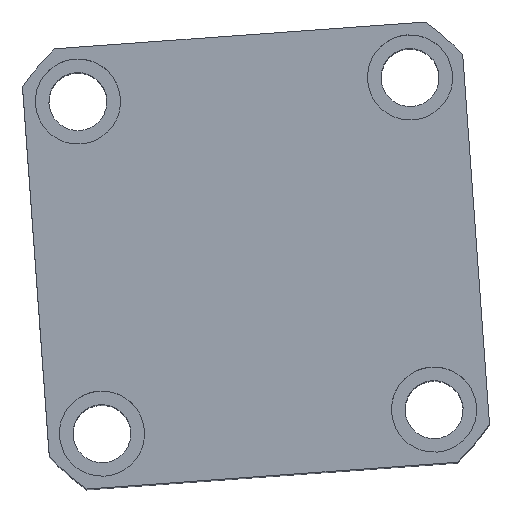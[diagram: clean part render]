
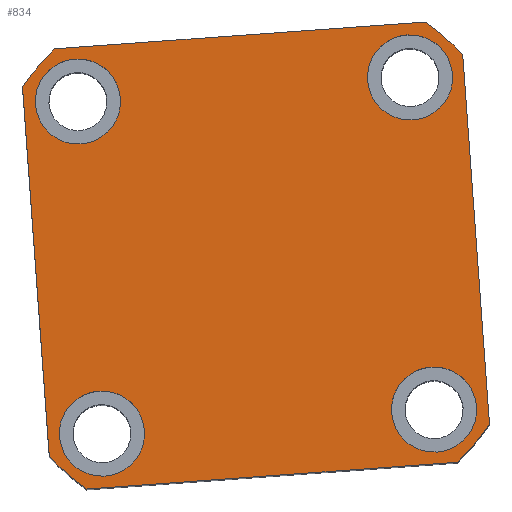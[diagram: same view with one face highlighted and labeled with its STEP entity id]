
A CAD part, top view. The second image highlights one B-rep face of the part: STEP entity #834.
In plain terms, the highlighted planar face has unit normal (0, 0, 1) as drawn and (0, 0, -1) by its records, which use the part's own axes.
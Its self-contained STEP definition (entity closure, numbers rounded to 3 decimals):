
#19 = VERTEX_POINT ( 'NONE', #7756 ) ;
#45 = AXIS2_PLACEMENT_3D ( 'NONE', #4732, #12927, #5910 ) ;
#78 = EDGE_CURVE ( 'NONE', #4107, #19, #8473, .T. ) ;
#91 = DIRECTION ( 'NONE',  ( -1., 0., 0. ) ) ;
#135 = CARTESIAN_POINT ( 'NONE',  ( -32., -43., 0. ) ) ;
#428 = ORIENTED_EDGE ( 'NONE', *, *, #13526, .F. ) ;
#440 = EDGE_LOOP ( 'NONE', ( #12144, #14699 ) ) ;
#528 = AXIS2_PLACEMENT_3D ( 'NONE', #10680, #3644, #11846 ) ;
#705 = VECTOR ( 'NONE', #5533, 1000. ) ;
#834 = ADVANCED_FACE ( 'NONE', ( #3504, #3128, #11770, #8647, #5907 ), #8734, .F. ) ;
#862 = EDGE_CURVE ( 'NONE', #19, #12940, #11400, .T. ) ;
#1040 = AXIS2_PLACEMENT_3D ( 'NONE', #2072, #10305, #3271 ) ;
#1099 = DIRECTION ( 'NONE',  ( -1., 0., 0. ) ) ;
#1164 = CARTESIAN_POINT ( 'NONE',  ( 47.971, -57., 0. ) ) ;
#1219 = CARTESIAN_POINT ( 'NONE',  ( 54., -43., 0. ) ) ;
#1561 = AXIS2_PLACEMENT_3D ( 'NONE', #4522, #2078, #15174 ) ;
#1895 = CIRCLE ( 'NONE', #45, 11. ) ;
#1928 = DIRECTION ( 'NONE',  ( 0., 0., 1. ) ) ;
#1956 = CARTESIAN_POINT ( 'NONE',  ( -47.971, -57., 0. ) ) ;
#2010 = CIRCLE ( 'NONE', #6474, 11. ) ;
#2044 = CARTESIAN_POINT ( 'NONE',  ( 43., -43., 0. ) ) ;
#2062 = VERTEX_POINT ( 'NONE', #1219 ) ;
#2071 = CARTESIAN_POINT ( 'NONE',  ( -57., 57., 0. ) ) ;
#2072 = CARTESIAN_POINT ( 'NONE',  ( -43., 43., 0. ) ) ;
#2078 = DIRECTION ( 'NONE',  ( 0., 0., 1. ) ) ;
#2204 = ORIENTED_EDGE ( 'NONE', *, *, #7381, .F. ) ;
#2319 = EDGE_CURVE ( 'NONE', #3867, #13587, #6017, .T. ) ;
#2358 = AXIS2_PLACEMENT_3D ( 'NONE', #6392, #1928, #7557 ) ;
#2972 = ORIENTED_EDGE ( 'NONE', *, *, #11427, .F. ) ;
#3128 = FACE_BOUND ( 'NONE', #440, .T. ) ;
#3246 = DIRECTION ( 'NONE',  ( -1., 0., 0. ) ) ;
#3257 = CARTESIAN_POINT ( 'NONE',  ( 54., 43., 0. ) ) ;
#3271 = DIRECTION ( 'NONE',  ( -1., 0., 0. ) ) ;
#3294 = VECTOR ( 'NONE', #8047, 1000. ) ;
#3298 = DIRECTION ( 'NONE',  ( 0., 0., 1. ) ) ;
#3312 = AXIS2_PLACEMENT_3D ( 'NONE', #10905, #3873, #12087 ) ;
#3374 = DIRECTION ( 'NONE',  ( 0., 0., -1. ) ) ;
#3468 = DIRECTION ( 'NONE',  ( 0., 0., -1. ) ) ;
#3504 = FACE_BOUND ( 'NONE', #8208, .T. ) ;
#3607 = VERTEX_POINT ( 'NONE', #1164 ) ;
#3644 = DIRECTION ( 'NONE',  ( 0., 0., -1. ) ) ;
#3743 = EDGE_CURVE ( 'NONE', #3607, #4107, #10211, .T. ) ;
#3821 = DIRECTION ( 'NONE',  ( 0., 0., 1. ) ) ;
#3867 = VERTEX_POINT ( 'NONE', #14611 ) ;
#3873 = DIRECTION ( 'NONE',  ( 0., 0., 1. ) ) ;
#3947 = CARTESIAN_POINT ( 'NONE',  ( -57., -47.971, 0. ) ) ;
#4107 = VERTEX_POINT ( 'NONE', #5319 ) ;
#4120 = ORIENTED_EDGE ( 'NONE', *, *, #13352, .F. ) ;
#4135 = ORIENTED_EDGE ( 'NONE', *, *, #12421, .F. ) ;
#4241 = CARTESIAN_POINT ( 'NONE',  ( 32., 43., 0. ) ) ;
#4441 = EDGE_CURVE ( 'NONE', #11419, #6930, #11673, .T. ) ;
#4522 = CARTESIAN_POINT ( 'NONE',  ( 0., 0., 0. ) ) ;
#4544 = EDGE_CURVE ( 'NONE', #11704, #11486, #1895, .T. ) ;
#4732 = CARTESIAN_POINT ( 'NONE',  ( -43., 43., 0. ) ) ;
#5035 = CARTESIAN_POINT ( 'NONE',  ( 32., -43., 0. ) ) ;
#5319 = CARTESIAN_POINT ( 'NONE',  ( 57., -47.971, 0. ) ) ;
#5344 = VECTOR ( 'NONE', #12372, 1000. ) ;
#5468 = CARTESIAN_POINT ( 'NONE',  ( -57., 57., 0. ) ) ;
#5533 = DIRECTION ( 'NONE',  ( -1., 0., 0. ) ) ;
#5907 = FACE_OUTER_BOUND ( 'NONE', #14510, .T. ) ;
#5910 = DIRECTION ( 'NONE',  ( -1., 0., 0. ) ) ;
#6010 = VERTEX_POINT ( 'NONE', #7324 ) ;
#6017 = CIRCLE ( 'NONE', #12552, 11. ) ;
#6178 = AXIS2_PLACEMENT_3D ( 'NONE', #10855, #3821, #12033 ) ;
#6291 = AXIS2_PLACEMENT_3D ( 'NONE', #10343, #3298, #11527 ) ;
#6392 = CARTESIAN_POINT ( 'NONE',  ( 0., 0., 0. ) ) ;
#6474 = AXIS2_PLACEMENT_3D ( 'NONE', #2044, #10278, #3246 ) ;
#6737 = ORIENTED_EDGE ( 'NONE', *, *, #11313, .F. ) ;
#6803 = LINE ( 'NONE', #13869, #3294 ) ;
#6815 = CIRCLE ( 'NONE', #14412, 11. ) ;
#6930 = VERTEX_POINT ( 'NONE', #4241 ) ;
#7111 = ORIENTED_EDGE ( 'NONE', *, *, #2319, .F. ) ;
#7155 = DIRECTION ( 'NONE',  ( 0., 0., -1. ) ) ;
#7324 = CARTESIAN_POINT ( 'NONE',  ( -47.971, 57., 0. ) ) ;
#7361 = CARTESIAN_POINT ( 'NONE',  ( -54., 43., 0. ) ) ;
#7381 = EDGE_CURVE ( 'NONE', #8834, #12365, #11776, .T. ) ;
#7468 = ORIENTED_EDGE ( 'NONE', *, *, #3743, .F. ) ;
#7546 = EDGE_CURVE ( 'NONE', #8029, #2062, #2010, .T. ) ;
#7557 = DIRECTION ( 'NONE',  ( 1., 0., 0. ) ) ;
#7756 = CARTESIAN_POINT ( 'NONE',  ( 57., 47.971, 0. ) ) ;
#8029 = VERTEX_POINT ( 'NONE', #5035 ) ;
#8047 = DIRECTION ( 'NONE',  ( 1., 0., 0. ) ) ;
#8162 = DIRECTION ( 'NONE',  ( 0., 0., -1. ) ) ;
#8208 = EDGE_LOOP ( 'NONE', ( #7111, #10744 ) ) ;
#8244 = CIRCLE ( 'NONE', #1040, 11. ) ;
#8460 = EDGE_CURVE ( 'NONE', #12940, #6010, #13210, .T. ) ;
#8473 = LINE ( 'NONE', #12585, #5344 ) ;
#8647 = FACE_BOUND ( 'NONE', #13474, .T. ) ;
#8734 = PLANE ( 'NONE',  #2358 ) ;
#8834 = VERTEX_POINT ( 'NONE', #3947 ) ;
#9339 = CIRCLE ( 'NONE', #11785, 11. ) ;
#9636 = EDGE_LOOP ( 'NONE', ( #428, #10590 ) ) ;
#9657 = ORIENTED_EDGE ( 'NONE', *, *, #4544, .F. ) ;
#9888 = CARTESIAN_POINT ( 'NONE',  ( -57., 47.971, 0. ) ) ;
#10119 = ORIENTED_EDGE ( 'NONE', *, *, #862, .F. ) ;
#10211 = CIRCLE ( 'NONE', #6178, 74.5 ) ;
#10278 = DIRECTION ( 'NONE',  ( 0., 0., -1. ) ) ;
#10305 = DIRECTION ( 'NONE',  ( 0., 0., -1. ) ) ;
#10341 = EDGE_CURVE ( 'NONE', #13587, #3867, #6815, .T. ) ;
#10343 = CARTESIAN_POINT ( 'NONE',  ( 0., 0., 0. ) ) ;
#10418 = CARTESIAN_POINT ( 'NONE',  ( -43., -43., 0. ) ) ;
#10510 = CARTESIAN_POINT ( 'NONE',  ( -43., -43., 0. ) ) ;
#10590 = ORIENTED_EDGE ( 'NONE', *, *, #4441, .F. ) ;
#10680 = CARTESIAN_POINT ( 'NONE',  ( 43., -43., 0. ) ) ;
#10744 = ORIENTED_EDGE ( 'NONE', *, *, #10341, .F. ) ;
#10855 = CARTESIAN_POINT ( 'NONE',  ( 0., 0., 0. ) ) ;
#10905 = CARTESIAN_POINT ( 'NONE',  ( 0., 0., 0. ) ) ;
#11240 = ORIENTED_EDGE ( 'NONE', *, *, #78, .F. ) ;
#11313 = EDGE_CURVE ( 'NONE', #15167, #8834, #11750, .T. ) ;
#11400 = CIRCLE ( 'NONE', #1561, 74.5 ) ;
#11419 = VERTEX_POINT ( 'NONE', #3257 ) ;
#11427 = EDGE_CURVE ( 'NONE', #12365, #3607, #6803, .T. ) ;
#11486 = VERTEX_POINT ( 'NONE', #15051 ) ;
#11527 = DIRECTION ( 'NONE',  ( 1., 0., 0. ) ) ;
#11592 = DIRECTION ( 'NONE',  ( -1., 0., 0. ) ) ;
#11673 = CIRCLE ( 'NONE', #14496, 11. ) ;
#11688 = DIRECTION ( 'NONE',  ( -1., 0., 0. ) ) ;
#11704 = VERTEX_POINT ( 'NONE', #7361 ) ;
#11750 = LINE ( 'NONE', #5468, #15226 ) ;
#11770 = FACE_BOUND ( 'NONE', #9636, .T. ) ;
#11776 = CIRCLE ( 'NONE', #3312, 74.5 ) ;
#11785 = AXIS2_PLACEMENT_3D ( 'NONE', #14162, #7155, #91 ) ;
#11846 = DIRECTION ( 'NONE',  ( -1., 0., 0. ) ) ;
#11899 = EDGE_CURVE ( 'NONE', #2062, #8029, #13551, .T. ) ;
#12033 = DIRECTION ( 'NONE',  ( 1., 0., 0. ) ) ;
#12087 = DIRECTION ( 'NONE',  ( 1., 0., 0. ) ) ;
#12144 = ORIENTED_EDGE ( 'NONE', *, *, #7546, .F. ) ;
#12184 = CARTESIAN_POINT ( 'NONE',  ( 47.971, 57., 0. ) ) ;
#12365 = VERTEX_POINT ( 'NONE', #1956 ) ;
#12372 = DIRECTION ( 'NONE',  ( 0., 1., 0. ) ) ;
#12421 = EDGE_CURVE ( 'NONE', #11486, #11704, #8244, .T. ) ;
#12552 = AXIS2_PLACEMENT_3D ( 'NONE', #10510, #3468, #11688 ) ;
#12585 = CARTESIAN_POINT ( 'NONE',  ( 57., 57., 0. ) ) ;
#12927 = DIRECTION ( 'NONE',  ( 0., 0., -1. ) ) ;
#12940 = VERTEX_POINT ( 'NONE', #12184 ) ;
#13210 = LINE ( 'NONE', #2071, #705 ) ;
#13352 = EDGE_CURVE ( 'NONE', #6010, #15167, #13909, .T. ) ;
#13474 = EDGE_LOOP ( 'NONE', ( #9657, #4135 ) ) ;
#13526 = EDGE_CURVE ( 'NONE', #6930, #11419, #9339, .T. ) ;
#13551 = CIRCLE ( 'NONE', #528, 11. ) ;
#13587 = VERTEX_POINT ( 'NONE', #135 ) ;
#13654 = DIRECTION ( 'NONE',  ( 0., -1., 0. ) ) ;
#13869 = CARTESIAN_POINT ( 'NONE',  ( -57., -57., 0. ) ) ;
#13909 = CIRCLE ( 'NONE', #6291, 74.5 ) ;
#14162 = CARTESIAN_POINT ( 'NONE',  ( 43., 43., 0. ) ) ;
#14412 = AXIS2_PLACEMENT_3D ( 'NONE', #10418, #3374, #11592 ) ;
#14496 = AXIS2_PLACEMENT_3D ( 'NONE', #15178, #8162, #1099 ) ;
#14508 = ORIENTED_EDGE ( 'NONE', *, *, #8460, .F. ) ;
#14510 = EDGE_LOOP ( 'NONE', ( #10119, #11240, #7468, #2972, #2204, #6737, #4120, #14508 ) ) ;
#14611 = CARTESIAN_POINT ( 'NONE',  ( -54., -43., 0. ) ) ;
#14699 = ORIENTED_EDGE ( 'NONE', *, *, #11899, .F. ) ;
#15051 = CARTESIAN_POINT ( 'NONE',  ( -32., 43., 0. ) ) ;
#15167 = VERTEX_POINT ( 'NONE', #9888 ) ;
#15174 = DIRECTION ( 'NONE',  ( 1., 0., 0. ) ) ;
#15178 = CARTESIAN_POINT ( 'NONE',  ( 43., 43., 0. ) ) ;
#15226 = VECTOR ( 'NONE', #13654, 1000. ) ;
